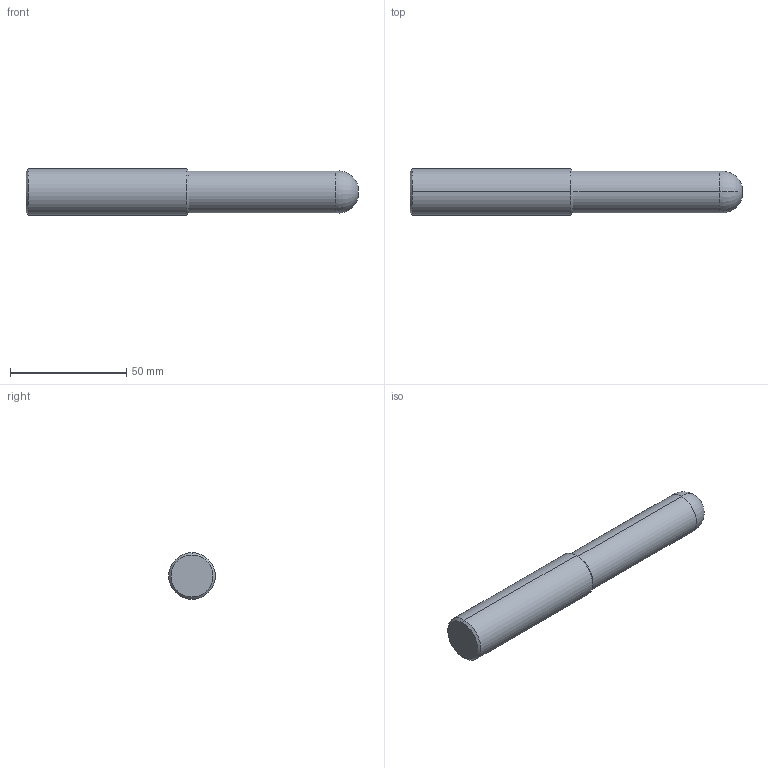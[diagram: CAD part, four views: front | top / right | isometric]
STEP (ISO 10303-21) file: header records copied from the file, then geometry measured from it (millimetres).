
FILE_DESCRIPTION (( 'STEP AP214' ), '1' );
FILE_NAME ('ZBS2002200.STEP', '2021-10-01T00:20:10', ( 'USER' ), ( '' ), 'SwSTEP 2.0', 'SolidWorks 2018', '' );
FILE_SCHEMA (( 'AUTOMOTIVE_DESIGN' ));
Length unit declared in the file: millimetre
Products named in the file (2): ZBS2002200
Bounding box: 142.6 x 20 x 20 mm (x, y, z)
Volume: 39746.1 mm3; surface area: 8824.8 mm2
Topology: 1 solids, 1 shells, 12 faces, 22 edges, 12 vertices
Faces by surface type: cone 4, cylinder 4, torus 2, plane 2
Entity records: 345 total; most frequent: DIRECTION 64, CARTESIAN_POINT 48, ORIENTED_EDGE 44, AXIS2_PLACEMENT_3D 28, EDGE_CURVE 22, CIRCLE 14, EDGE_LOOP 12, VERTEX_POINT 12
